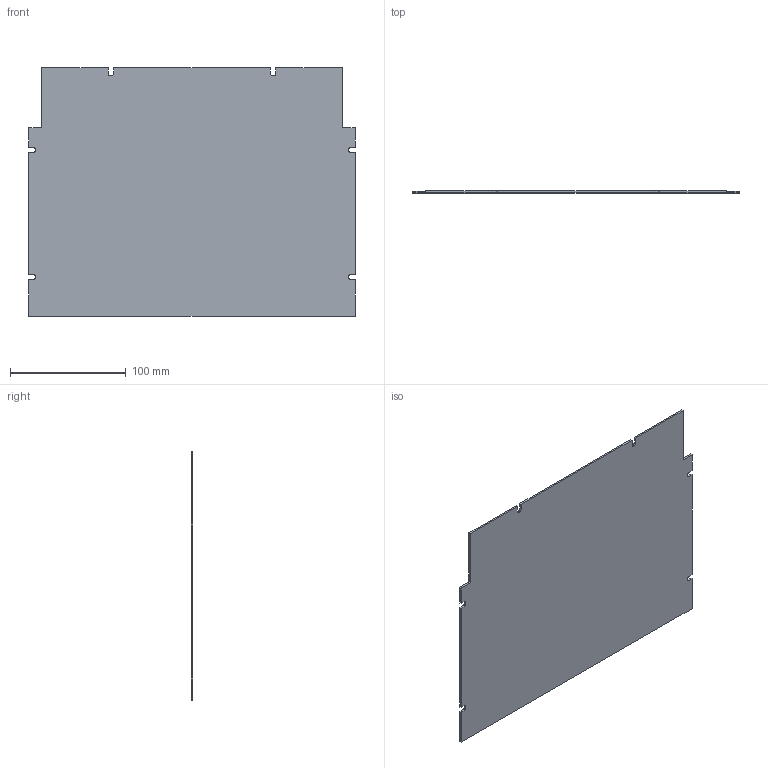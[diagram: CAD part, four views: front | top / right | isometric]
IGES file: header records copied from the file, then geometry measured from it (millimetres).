
Start section: SolidWorks IGES file using analytic representation for surfaces
Global section: file name: G:\3DRAW\CM\3DCAM\Asennuslevyt\MP 30-25 .IGS; native system: SolidWorks 2009; preprocessor: SolidWorks 2009; author: KennethW; date: 100216.110123; units: millimetre
Bounding box: 282 x 1.5 x 215 mm (x, y, z)
Surface area: 120246.7 mm2 (no closed solid volume)
Topology: 0 solids, 0 shells, 36 faces, 284 edges, 284 vertices
Faces by surface type: bspline 28, revolution 8
